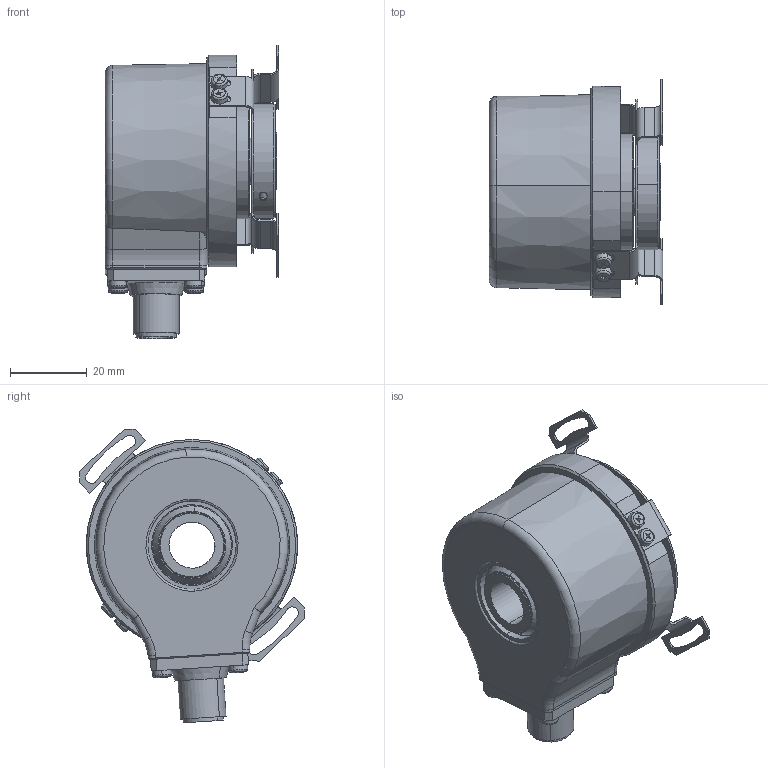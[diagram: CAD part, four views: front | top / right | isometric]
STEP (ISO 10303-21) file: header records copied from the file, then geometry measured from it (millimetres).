
FILE_DESCRIPTION (( 'STEP AP214' ), '1' );
FILE_NAME ('5020.C5X2.XXXX.STEP', '2007-12-13T07:12:22', ( 'DanneckerS' ), ( ' ' ), 'SwSTEP 2.0', 'SolidWorks 2007', '' );
FILE_SCHEMA (( 'AUTOMOTIVE_DESIGN' ));
Length unit declared in the file: millimetre
Products named in the file (1): 5020.C5X2.XXXX
Bounding box: 45.2 x 58.56 x 76.41 mm (x, y, z)
Surface area: 20891.8 mm2 (no closed solid volume)
Topology: 0 solids, 27 shells, 381 faces, 1107 edges, 732 vertices
Faces by surface type: plane 176, cylinder 114, cone 33, torus 30, sphere 24, bspline 4
Entity records: 16866 total; most frequent: CARTESIAN_POINT 2625, DIRECTION 2221, ORIENTED_EDGE 1906, EDGE_CURVE 1075, AXIS2_PLACEMENT_3D 828, VERTEX_POINT 716, VECTOR 565, LINE 565
